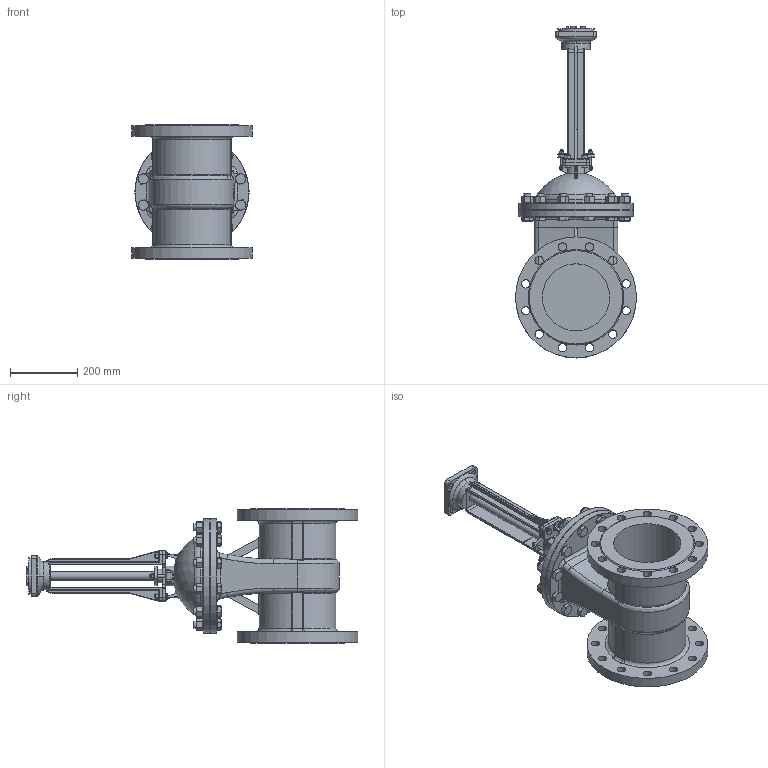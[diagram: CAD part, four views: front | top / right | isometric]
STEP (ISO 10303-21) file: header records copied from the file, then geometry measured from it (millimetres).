
FILE_DESCRIPTION(('STEP AP242'), '1');
FILE_NAME('GVWR2434M-2W-F-ÎÑÒ Çàäâèæêà êëèíîâàÿ ñ âûäâèæíûì øòîêîì Äó200 Ðó25', '2026-05-30T14:15:11', ('R2D2'), (''), 'C3D Converter', 'C3D Toolkit', '');
FILE_SCHEMA(('AP242_MANAGED_MODEL_BASED_3D_ENGINEERING_MIM_LF { 1 0 10303 442 1 1 4 }'));
Length unit declared in the file: millimetre
Products named in the file (1): GVWR2434M-2W-F-ОСТ
Bounding box: 360 x 988 x 400 mm (x, y, z)
Volume: 23590985 mm3; surface area: 1541873.3 mm2
Topology: 1 solids, 13 shells, 1478 faces, 3627 edges, 2244 vertices
Faces by surface type: plane 653, cone 288, cylinder 270, extrusion 113, bspline 73, torus 72, sphere 5, revolution 4
Full cylindrical faces by diameter (mm): 7 x4, 8 x4, 10 x8, 12 x4, 15 x2, 16 x4, 20 x36, 25 x26, 27.9 x12, 30 x9, 40 x1, 45 x1, 85 x1, 108 x1, 200 x2, 240 x2, 340 x2, 360 x2
Entity records: 73332 total; most frequent: CARTESIAN_POINT 36638, ORIENTED_EDGE 6888, DIRECTION 6203, EDGE_CURVE 3444, AXIS2_PLACEMENT_3D 2367, VERTEX_POINT 2242, EDGE_LOOP 1856, FACE_BOUND 1631
